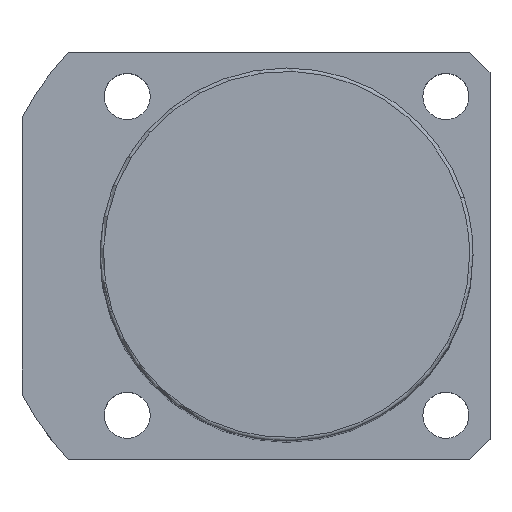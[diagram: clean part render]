
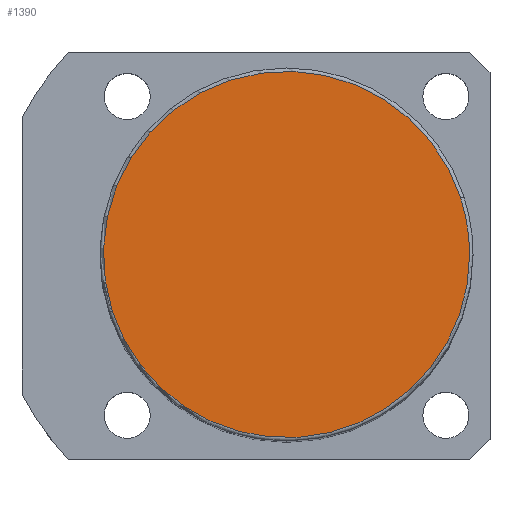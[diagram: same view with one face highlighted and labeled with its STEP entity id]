
A CAD part, top view. The second image highlights one B-rep face of the part: STEP entity #1390.
In plain terms, the highlighted planar face has unit normal (0, 0, 1).
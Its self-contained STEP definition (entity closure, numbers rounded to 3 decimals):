
#1356=CARTESIAN_POINT('',(27.0,0.0,126.0));
#1357=VERTEX_POINT('',#1356);
#1358=CARTESIAN_POINT('',(25.679,8.343,126.0));
#1359=VERTEX_POINT('',#1358);
#1360=CARTESIAN_POINT('',(0.0,0.0,126.0));
#1361=DIRECTION('',(0.0,0.0,1.0));
#1362=DIRECTION('',(1.0,0.0,0.0));
#1363=AXIS2_PLACEMENT_3D('',#1360,#1361,#1362);
#1364=CIRCLE('',#1363,27.0);
#1365=EDGE_CURVE('no 1875',#1357,#1359,#1364,.T.);
#1366=ORIENTED_EDGE('',*,*,#1365,.T.);
#1367=CARTESIAN_POINT('',(-25.679,-8.343,126.0));
#1368=VERTEX_POINT('',#1367);
#1369=CARTESIAN_POINT('',(0.0,0.0,126.0));
#1370=DIRECTION('',(0.0,0.0,1.0));
#1371=DIRECTION('',(1.0,0.0,0.0));
#1372=AXIS2_PLACEMENT_3D('',#1369,#1370,#1371);
#1373=CIRCLE('',#1372,27.0);
#1374=EDGE_CURVE('no 1881',#1359,#1368,#1373,.T.);
#1375=ORIENTED_EDGE('',*,*,#1374,.T.);
#1376=CARTESIAN_POINT('',(0.0,0.0,126.0));
#1377=DIRECTION('',(0.0,0.0,1.0));
#1378=DIRECTION('',(1.0,0.0,0.0));
#1379=AXIS2_PLACEMENT_3D('',#1376,#1377,#1378);
#1380=CIRCLE('',#1379,27.0);
#1381=EDGE_CURVE('no 1885',#1368,#1357,#1380,.T.);
#1382=ORIENTED_EDGE('',*,*,#1381,.T.);
#1383=EDGE_LOOP('',(#1366,#1375,#1382));
#1384=FACE_OUTER_BOUND('',#1383,.T.);
#1385=CARTESIAN_POINT('',(0.0,0.0,126.0));
#1386=DIRECTION('',(0.0,0.0,1.0));
#1387=DIRECTION('',(1.0,0.0,0.0));
#1388=AXIS2_PLACEMENT_3D('',#1385,#1386,#1387);
#1389=PLANE('',#1388);
#1390=ADVANCED_FACE('no 1866',(#1384),#1389,.T.);
